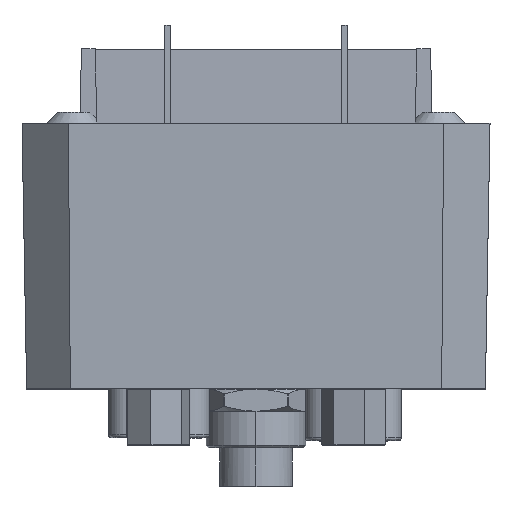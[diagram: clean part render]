
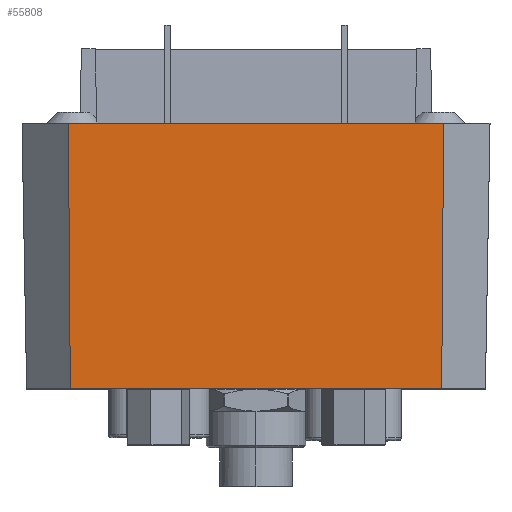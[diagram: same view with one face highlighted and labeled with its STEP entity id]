
A CAD part, top view. The second image highlights one B-rep face of the part: STEP entity #55808.
In plain terms, the highlighted planar face has unit normal (0, -0.018, 1).
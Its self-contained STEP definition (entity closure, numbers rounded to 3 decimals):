
#262 = PLANE ( 'NONE',  #23405 ) ;
#1123 = CARTESIAN_POINT ( 'NONE',  ( -237.997, 24.213, 134.946 ) ) ;
#1416 = LINE ( 'NONE', #17012, #27701 ) ;
#4055 = VERTEX_POINT ( 'NONE', #18910 ) ;
#5661 = CARTESIAN_POINT ( 'NONE',  ( -204.219, 0.213, 134.527 ) ) ;
#6749 = EDGE_LOOP ( 'NONE', ( #48815, #32052, #60721, #30793 ) ) ;
#8294 = DIRECTION ( 'NONE',  ( 0.007, 1., 0.017 ) ) ;
#10589 = DIRECTION ( 'NONE',  ( 0., -1., -0.017 ) ) ;
#11320 = CARTESIAN_POINT ( 'NONE',  ( -237.824, 0.213, 134.527 ) ) ;
#11706 = VERTEX_POINT ( 'NONE', #39515 ) ;
#13234 = LINE ( 'NONE', #16616, #51145 ) ;
#14643 = EDGE_CURVE ( 'NONE', #11706, #61270, #13234, .T. ) ;
#15395 = VECTOR ( 'NONE', #8294, 1000. ) ;
#16616 = CARTESIAN_POINT ( 'NONE',  ( -204.219, 24.213, 134.946 ) ) ;
#16706 = LINE ( 'NONE', #11320, #41496 ) ;
#17012 = CARTESIAN_POINT ( 'NONE',  ( -204.219, 0.213, 134.527 ) ) ;
#17661 = EDGE_CURVE ( 'NONE', #54831, #61270, #16706, .T. ) ;
#18910 = CARTESIAN_POINT ( 'NONE',  ( -204.219, 0.213, 134.527 ) ) ;
#23405 = AXIS2_PLACEMENT_3D ( 'NONE', #5661, #40222, #10589 ) ;
#26250 = DIRECTION ( 'NONE',  ( -0.007, 1., 0.017 ) ) ;
#27701 = VECTOR ( 'NONE', #61559, 1000. ) ;
#30793 = ORIENTED_EDGE ( 'NONE', *, *, #44314, .T. ) ;
#32052 = ORIENTED_EDGE ( 'NONE', *, *, #17661, .F. ) ;
#39515 = CARTESIAN_POINT ( 'NONE',  ( -204.046, 24.213, 134.946 ) ) ;
#40222 = DIRECTION ( 'NONE',  ( 0., -0.017, 1. ) ) ;
#41291 = EDGE_CURVE ( 'NONE', #4055, #54831, #1416, .T. ) ;
#41496 = VECTOR ( 'NONE', #26250, 1000. ) ;
#44314 = EDGE_CURVE ( 'NONE', #4055, #11706, #54824, .T. ) ;
#48815 = ORIENTED_EDGE ( 'NONE', *, *, #14643, .T. ) ;
#51145 = VECTOR ( 'NONE', #56157, 1000. ) ;
#54824 = LINE ( 'NONE', #57551, #15395 ) ;
#54831 = VERTEX_POINT ( 'NONE', #55035 ) ;
#55035 = CARTESIAN_POINT ( 'NONE',  ( -237.824, 0.213, 134.527 ) ) ;
#55808 = ADVANCED_FACE ( 'NONE', ( #56654 ), #262, .T. ) ;
#56157 = DIRECTION ( 'NONE',  ( -1., 0., 0. ) ) ;
#56654 = FACE_OUTER_BOUND ( 'NONE', #6749, .T. ) ;
#57551 = CARTESIAN_POINT ( 'NONE',  ( -204.219, 0.213, 134.527 ) ) ;
#60721 = ORIENTED_EDGE ( 'NONE', *, *, #41291, .F. ) ;
#61270 = VERTEX_POINT ( 'NONE', #1123 ) ;
#61559 = DIRECTION ( 'NONE',  ( -1., 0., 0. ) ) ;
